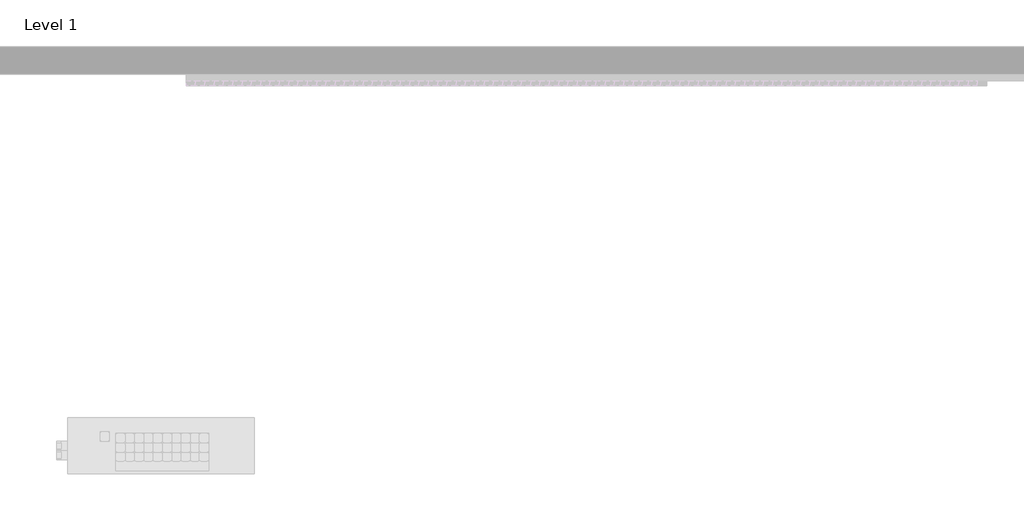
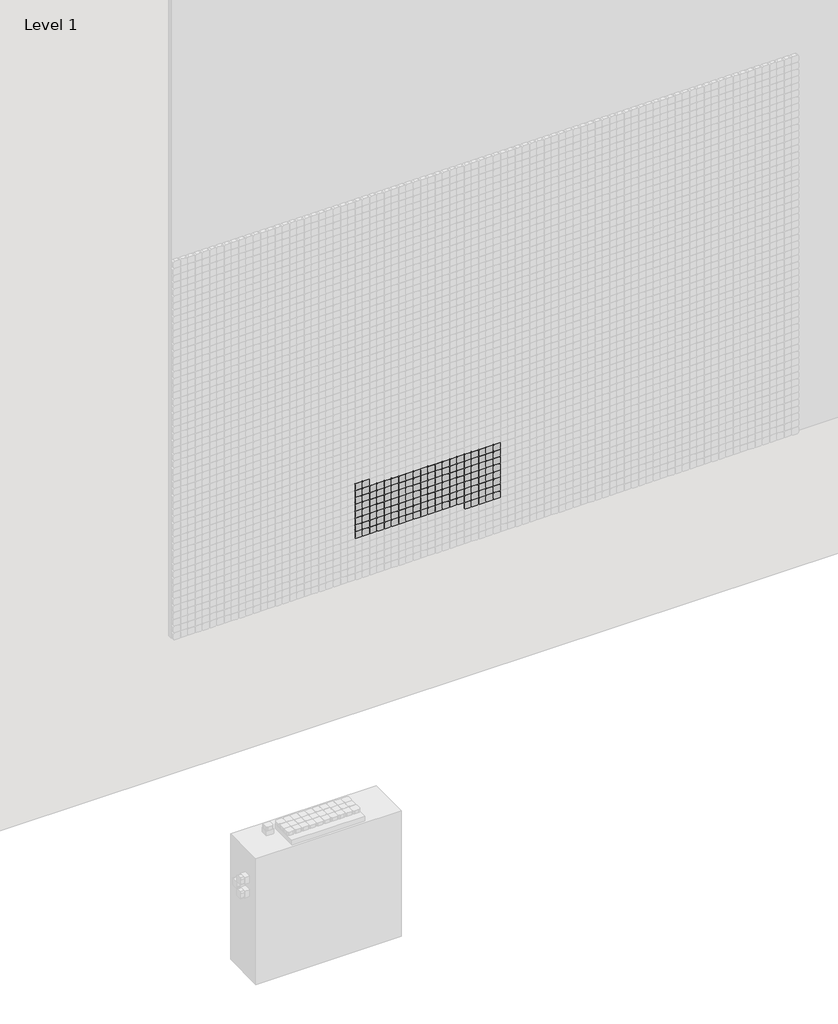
# One storey, part 33 of 71: 147 proxies.
"""IFC4 building model written with IfcOpenShell, lengths in millimetres."""

from ifc_helpers import new_model, si_unit, origin, place, context, project, spatial, transform, mapped, element, save
from components import generic_models_afde289c

model = new_model("IFC4")

# Units and contexts
model_context = context("Model", 3, world=origin())
ifc_project = project(units=[si_unit("LENGTHUNIT", "METRE", prefix="MILLI")], contexts=[model_context])

# Site, building, storey
site = spatial("IfcSite", under=ifc_project)
building = spatial("IfcBuilding", under=site)
storey = spatial("IfcBuildingStorey", under=building, Name="Level 1", Elevation=0.0)

# Proxies
placement = place(None, origin())
generic_models_shape = generic_models_afde289c(model_context)
element("IfcBuildingElementProxy", 1, Name="Pixel_M : Pixel_M", ObjectType="Pixel_M : Pixel_M", at=placement, inside=storey, context=model_context, shape_type="MappedRepresentation", body=[
    mapped(generic_models_shape, transform((6062.4280941, -75.0, 1666.3566215), x_axis=(1.0, 0.0, 0.0), y_axis=(0.0, 0.0, 1.0), z_axis=(0.0, -1.0, 0.0))),
])
element("IfcBuildingElementProxy", 2, Name="Pixel_M : Pixel_M", ObjectType="Pixel_M : Pixel_M", at=placement, inside=storey, context=model_context, shape_type="MappedRepresentation", body=[
    mapped(generic_models_shape, transform((6012.4280941, -75.0, 1666.3566215), x_axis=(1.0, 0.0, 0.0), y_axis=(0.0, 0.0, 1.0), z_axis=(0.0, -1.0, 0.0))),
])
element("IfcBuildingElementProxy", 3, Name="Pixel_M : Pixel_M", ObjectType="Pixel_M : Pixel_M", at=placement, inside=storey, context=model_context, shape_type="MappedRepresentation", body=[
    mapped(generic_models_shape, transform((6962.4280941, -75.0, 1616.3566215), x_axis=(1.0, 0.0, 0.0), y_axis=(0.0, 0.0, 1.0), z_axis=(0.0, -1.0, 0.0))),
])
element("IfcBuildingElementProxy", 4, Name="Pixel_M : Pixel_M", ObjectType="Pixel_M : Pixel_M", at=placement, inside=storey, context=model_context, shape_type="MappedRepresentation", body=[
    mapped(generic_models_shape, transform((6912.4280941, -75.0, 1616.3566215), x_axis=(1.0, 0.0, 0.0), y_axis=(0.0, 0.0, 1.0), z_axis=(0.0, -1.0, 0.0))),
])
element("IfcBuildingElementProxy", 5, Name="Pixel_M : Pixel_M", ObjectType="Pixel_M : Pixel_M", at=placement, inside=storey, context=model_context, shape_type="MappedRepresentation", body=[
    mapped(generic_models_shape, transform((6862.4280941, -75.0, 1616.3566215), x_axis=(1.0, 0.0, 0.0), y_axis=(0.0, 0.0, 1.0), z_axis=(0.0, -1.0, 0.0))),
])
element("IfcBuildingElementProxy", 6, Name="Pixel_M : Pixel_M", ObjectType="Pixel_M : Pixel_M", at=placement, inside=storey, context=model_context, shape_type="MappedRepresentation", body=[
    mapped(generic_models_shape, transform((6812.4280941, -75.0, 1616.3566215), x_axis=(1.0, 0.0, 0.0), y_axis=(0.0, 0.0, 1.0), z_axis=(0.0, -1.0, 0.0))),
])
element("IfcBuildingElementProxy", 7, Name="Pixel_M : Pixel_M", ObjectType="Pixel_M : Pixel_M", at=placement, inside=storey, context=model_context, shape_type="MappedRepresentation", body=[
    mapped(generic_models_shape, transform((6762.4280941, -75.0, 1616.3566215), x_axis=(1.0, 0.0, 0.0), y_axis=(0.0, 0.0, 1.0), z_axis=(0.0, -1.0, 0.0))),
])
element("IfcBuildingElementProxy", 8, Name="Pixel_M : Pixel_M", ObjectType="Pixel_M : Pixel_M", at=placement, inside=storey, context=model_context, shape_type="MappedRepresentation", body=[
    mapped(generic_models_shape, transform((6712.4280941, -75.0, 1616.3566215), x_axis=(1.0, 0.0, 0.0), y_axis=(0.0, 0.0, 1.0), z_axis=(0.0, -1.0, 0.0))),
])
element("IfcBuildingElementProxy", 9, Name="Pixel_M : Pixel_M", ObjectType="Pixel_M : Pixel_M", at=placement, inside=storey, context=model_context, shape_type="MappedRepresentation", body=[
    mapped(generic_models_shape, transform((6662.4280941, -75.0, 1616.3566215), x_axis=(1.0, 0.0, 0.0), y_axis=(0.0, 0.0, 1.0), z_axis=(0.0, -1.0, 0.0))),
])
element("IfcBuildingElementProxy", 10, Name="Pixel_M : Pixel_M", ObjectType="Pixel_M : Pixel_M", at=placement, inside=storey, context=model_context, shape_type="MappedRepresentation", body=[
    mapped(generic_models_shape, transform((6612.4280941, -75.0, 1616.3566215), x_axis=(1.0, 0.0, 0.0), y_axis=(0.0, 0.0, 1.0), z_axis=(0.0, -1.0, 0.0))),
])
element("IfcBuildingElementProxy", 11, Name="Pixel_M : Pixel_M", ObjectType="Pixel_M : Pixel_M", at=placement, inside=storey, context=model_context, shape_type="MappedRepresentation", body=[
    mapped(generic_models_shape, transform((6562.4280941, -75.0, 1616.3566215), x_axis=(1.0, 0.0, 0.0), y_axis=(0.0, 0.0, 1.0), z_axis=(0.0, -1.0, 0.0))),
])
element("IfcBuildingElementProxy", 12, Name="Pixel_M : Pixel_M", ObjectType="Pixel_M : Pixel_M", at=placement, inside=storey, context=model_context, shape_type="MappedRepresentation", body=[
    mapped(generic_models_shape, transform((6512.4280941, -75.0, 1616.3566215), x_axis=(1.0, 0.0, 0.0), y_axis=(0.0, 0.0, 1.0), z_axis=(0.0, -1.0, 0.0))),
])
element("IfcBuildingElementProxy", 13, Name="Pixel_M : Pixel_M", ObjectType="Pixel_M : Pixel_M", at=placement, inside=storey, context=model_context, shape_type="MappedRepresentation", body=[
    mapped(generic_models_shape, transform((6462.4280941, -75.0, 1616.3566215), x_axis=(1.0, 0.0, 0.0), y_axis=(0.0, 0.0, 1.0), z_axis=(0.0, -1.0, 0.0))),
])
element("IfcBuildingElementProxy", 14, Name="Pixel_M : Pixel_M", ObjectType="Pixel_M : Pixel_M", at=placement, inside=storey, context=model_context, shape_type="MappedRepresentation", body=[
    mapped(generic_models_shape, transform((6412.4280941, -75.0, 1616.3566215), x_axis=(1.0, 0.0, 0.0), y_axis=(0.0, 0.0, 1.0), z_axis=(0.0, -1.0, 0.0))),
])
element("IfcBuildingElementProxy", 15, Name="Pixel_M : Pixel_M", ObjectType="Pixel_M : Pixel_M", at=placement, inside=storey, context=model_context, shape_type="MappedRepresentation", body=[
    mapped(generic_models_shape, transform((6362.4280941, -75.0, 1616.3566215), x_axis=(1.0, 0.0, 0.0), y_axis=(0.0, 0.0, 1.0), z_axis=(0.0, -1.0, 0.0))),
])
element("IfcBuildingElementProxy", 16, Name="Pixel_M : Pixel_M", ObjectType="Pixel_M : Pixel_M", at=placement, inside=storey, context=model_context, shape_type="MappedRepresentation", body=[
    mapped(generic_models_shape, transform((6312.4280941, -75.0, 1616.3566215), x_axis=(1.0, 0.0, 0.0), y_axis=(0.0, 0.0, 1.0), z_axis=(0.0, -1.0, 0.0))),
])
element("IfcBuildingElementProxy", 17, Name="Pixel_M : Pixel_M", ObjectType="Pixel_M : Pixel_M", at=placement, inside=storey, context=model_context, shape_type="MappedRepresentation", body=[
    mapped(generic_models_shape, transform((6262.4280941, -75.0, 1616.3566215), x_axis=(1.0, 0.0, 0.0), y_axis=(0.0, 0.0, 1.0), z_axis=(0.0, -1.0, 0.0))),
])
element("IfcBuildingElementProxy", 18, Name="Pixel_M : Pixel_M", ObjectType="Pixel_M : Pixel_M", at=placement, inside=storey, context=model_context, shape_type="MappedRepresentation", body=[
    mapped(generic_models_shape, transform((6212.4280941, -75.0, 1616.3566215), x_axis=(1.0, 0.0, 0.0), y_axis=(0.0, 0.0, 1.0), z_axis=(0.0, -1.0, 0.0))),
])
element("IfcBuildingElementProxy", 19, Name="Pixel_M : Pixel_M", ObjectType="Pixel_M : Pixel_M", at=placement, inside=storey, context=model_context, shape_type="MappedRepresentation", body=[
    mapped(generic_models_shape, transform((6162.4280941, -75.0, 1616.3566215), x_axis=(1.0, 0.0, 0.0), y_axis=(0.0, 0.0, 1.0), z_axis=(0.0, -1.0, 0.0))),
])
element("IfcBuildingElementProxy", 20, Name="Pixel_M : Pixel_M", ObjectType="Pixel_M : Pixel_M", at=placement, inside=storey, context=model_context, shape_type="MappedRepresentation", body=[
    mapped(generic_models_shape, transform((6112.4280941, -75.0, 1616.3566215), x_axis=(1.0, 0.0, 0.0), y_axis=(0.0, 0.0, 1.0), z_axis=(0.0, -1.0, 0.0))),
])
element("IfcBuildingElementProxy", 21, Name="Pixel_M : Pixel_M", ObjectType="Pixel_M : Pixel_M", at=placement, inside=storey, context=model_context, shape_type="MappedRepresentation", body=[
    mapped(generic_models_shape, transform((6062.4280941, -75.0, 1616.3566215), x_axis=(1.0, 0.0, 0.0), y_axis=(0.0, 0.0, 1.0), z_axis=(0.0, -1.0, 0.0))),
])
element("IfcBuildingElementProxy", 22, Name="Pixel_M : Pixel_M", ObjectType="Pixel_M : Pixel_M", at=placement, inside=storey, context=model_context, shape_type="MappedRepresentation", body=[
    mapped(generic_models_shape, transform((6012.4280941, -75.0, 1616.3566215), x_axis=(1.0, 0.0, 0.0), y_axis=(0.0, 0.0, 1.0), z_axis=(0.0, -1.0, 0.0))),
])
element("IfcBuildingElementProxy", 23, Name="Pixel_M : Pixel_M", ObjectType="Pixel_M : Pixel_M", at=placement, inside=storey, context=model_context, shape_type="MappedRepresentation", body=[
    mapped(generic_models_shape, transform((6962.4280941, -75.0, 1566.3566215), x_axis=(1.0, 0.0, 0.0), y_axis=(0.0, 0.0, 1.0), z_axis=(0.0, -1.0, 0.0))),
])
element("IfcBuildingElementProxy", 24, Name="Pixel_M : Pixel_M", ObjectType="Pixel_M : Pixel_M", at=placement, inside=storey, context=model_context, shape_type="MappedRepresentation", body=[
    mapped(generic_models_shape, transform((6912.4280941, -75.0, 1566.3566215), x_axis=(1.0, 0.0, 0.0), y_axis=(0.0, 0.0, 1.0), z_axis=(0.0, -1.0, 0.0))),
])
element("IfcBuildingElementProxy", 25, Name="Pixel_M : Pixel_M", ObjectType="Pixel_M : Pixel_M", at=placement, inside=storey, context=model_context, shape_type="MappedRepresentation", body=[
    mapped(generic_models_shape, transform((6862.4280941, -75.0, 1566.3566215), x_axis=(1.0, 0.0, 0.0), y_axis=(0.0, 0.0, 1.0), z_axis=(0.0, -1.0, 0.0))),
])
element("IfcBuildingElementProxy", 26, Name="Pixel_M : Pixel_M", ObjectType="Pixel_M : Pixel_M", at=placement, inside=storey, context=model_context, shape_type="MappedRepresentation", body=[
    mapped(generic_models_shape, transform((6812.4280941, -75.0, 1566.3566215), x_axis=(1.0, 0.0, 0.0), y_axis=(0.0, 0.0, 1.0), z_axis=(0.0, -1.0, 0.0))),
])
element("IfcBuildingElementProxy", 27, Name="Pixel_M : Pixel_M", ObjectType="Pixel_M : Pixel_M", at=placement, inside=storey, context=model_context, shape_type="MappedRepresentation", body=[
    mapped(generic_models_shape, transform((6762.4280941, -75.0, 1566.3566215), x_axis=(1.0, 0.0, 0.0), y_axis=(0.0, 0.0, 1.0), z_axis=(0.0, -1.0, 0.0))),
])
element("IfcBuildingElementProxy", 28, Name="Pixel_M : Pixel_M", ObjectType="Pixel_M : Pixel_M", at=placement, inside=storey, context=model_context, shape_type="MappedRepresentation", body=[
    mapped(generic_models_shape, transform((6712.4280941, -75.0, 1566.3566215), x_axis=(1.0, 0.0, 0.0), y_axis=(0.0, 0.0, 1.0), z_axis=(0.0, -1.0, 0.0))),
])
element("IfcBuildingElementProxy", 29, Name="Pixel_M : Pixel_M", ObjectType="Pixel_M : Pixel_M", at=placement, inside=storey, context=model_context, shape_type="MappedRepresentation", body=[
    mapped(generic_models_shape, transform((6662.4280941, -75.0, 1566.3566215), x_axis=(1.0, 0.0, 0.0), y_axis=(0.0, 0.0, 1.0), z_axis=(0.0, -1.0, 0.0))),
])
element("IfcBuildingElementProxy", 30, Name="Pixel_M : Pixel_M", ObjectType="Pixel_M : Pixel_M", at=placement, inside=storey, context=model_context, shape_type="MappedRepresentation", body=[
    mapped(generic_models_shape, transform((6612.4280941, -75.0, 1566.3566215), x_axis=(1.0, 0.0, 0.0), y_axis=(0.0, 0.0, 1.0), z_axis=(0.0, -1.0, 0.0))),
])
element("IfcBuildingElementProxy", 31, Name="Pixel_M : Pixel_M", ObjectType="Pixel_M : Pixel_M", at=placement, inside=storey, context=model_context, shape_type="MappedRepresentation", body=[
    mapped(generic_models_shape, transform((6562.4280941, -75.0, 1566.3566215), x_axis=(1.0, 0.0, 0.0), y_axis=(0.0, 0.0, 1.0), z_axis=(0.0, -1.0, 0.0))),
])
element("IfcBuildingElementProxy", 32, Name="Pixel_M : Pixel_M", ObjectType="Pixel_M : Pixel_M", at=placement, inside=storey, context=model_context, shape_type="MappedRepresentation", body=[
    mapped(generic_models_shape, transform((6512.4280941, -75.0, 1566.3566215), x_axis=(1.0, 0.0, 0.0), y_axis=(0.0, 0.0, 1.0), z_axis=(0.0, -1.0, 0.0))),
])
element("IfcBuildingElementProxy", 33, Name="Pixel_M : Pixel_M", ObjectType="Pixel_M : Pixel_M", at=placement, inside=storey, context=model_context, shape_type="MappedRepresentation", body=[
    mapped(generic_models_shape, transform((6462.4280941, -75.0, 1566.3566215), x_axis=(1.0, 0.0, 0.0), y_axis=(0.0, 0.0, 1.0), z_axis=(0.0, -1.0, 0.0))),
])
element("IfcBuildingElementProxy", 34, Name="Pixel_M : Pixel_M", ObjectType="Pixel_M : Pixel_M", at=placement, inside=storey, context=model_context, shape_type="MappedRepresentation", body=[
    mapped(generic_models_shape, transform((6412.4280941, -75.0, 1566.3566215), x_axis=(1.0, 0.0, 0.0), y_axis=(0.0, 0.0, 1.0), z_axis=(0.0, -1.0, 0.0))),
])
element("IfcBuildingElementProxy", 35, Name="Pixel_M : Pixel_M", ObjectType="Pixel_M : Pixel_M", at=placement, inside=storey, context=model_context, shape_type="MappedRepresentation", body=[
    mapped(generic_models_shape, transform((6362.4280941, -75.0, 1566.3566215), x_axis=(1.0, 0.0, 0.0), y_axis=(0.0, 0.0, 1.0), z_axis=(0.0, -1.0, 0.0))),
])
element("IfcBuildingElementProxy", 36, Name="Pixel_M : Pixel_M", ObjectType="Pixel_M : Pixel_M", at=placement, inside=storey, context=model_context, shape_type="MappedRepresentation", body=[
    mapped(generic_models_shape, transform((6312.4280941, -75.0, 1566.3566215), x_axis=(1.0, 0.0, 0.0), y_axis=(0.0, 0.0, 1.0), z_axis=(0.0, -1.0, 0.0))),
])
element("IfcBuildingElementProxy", 37, Name="Pixel_M : Pixel_M", ObjectType="Pixel_M : Pixel_M", at=placement, inside=storey, context=model_context, shape_type="MappedRepresentation", body=[
    mapped(generic_models_shape, transform((6262.4280941, -75.0, 1566.3566215), x_axis=(1.0, 0.0, 0.0), y_axis=(0.0, 0.0, 1.0), z_axis=(0.0, -1.0, 0.0))),
])
element("IfcBuildingElementProxy", 38, Name="Pixel_M : Pixel_M", ObjectType="Pixel_M : Pixel_M", at=placement, inside=storey, context=model_context, shape_type="MappedRepresentation", body=[
    mapped(generic_models_shape, transform((6212.4280941, -75.0, 1566.3566215), x_axis=(1.0, 0.0, 0.0), y_axis=(0.0, 0.0, 1.0), z_axis=(0.0, -1.0, 0.0))),
])
element("IfcBuildingElementProxy", 39, Name="Pixel_M : Pixel_M", ObjectType="Pixel_M : Pixel_M", at=placement, inside=storey, context=model_context, shape_type="MappedRepresentation", body=[
    mapped(generic_models_shape, transform((6162.4280941, -75.0, 1566.3566215), x_axis=(1.0, 0.0, 0.0), y_axis=(0.0, 0.0, 1.0), z_axis=(0.0, -1.0, 0.0))),
])
element("IfcBuildingElementProxy", 40, Name="Pixel_M : Pixel_M", ObjectType="Pixel_M : Pixel_M", at=placement, inside=storey, context=model_context, shape_type="MappedRepresentation", body=[
    mapped(generic_models_shape, transform((6112.4280941, -75.0, 1566.3566215), x_axis=(1.0, 0.0, 0.0), y_axis=(0.0, 0.0, 1.0), z_axis=(0.0, -1.0, 0.0))),
])
element("IfcBuildingElementProxy", 41, Name="Pixel_M : Pixel_M", ObjectType="Pixel_M : Pixel_M", at=placement, inside=storey, context=model_context, shape_type="MappedRepresentation", body=[
    mapped(generic_models_shape, transform((6062.4280941, -75.0, 1566.3566215), x_axis=(1.0, 0.0, 0.0), y_axis=(0.0, 0.0, 1.0), z_axis=(0.0, -1.0, 0.0))),
])
element("IfcBuildingElementProxy", 42, Name="Pixel_M : Pixel_M", ObjectType="Pixel_M : Pixel_M", at=placement, inside=storey, context=model_context, shape_type="MappedRepresentation", body=[
    mapped(generic_models_shape, transform((6012.4280941, -75.0, 1566.3566215), x_axis=(1.0, 0.0, 0.0), y_axis=(0.0, 0.0, 1.0), z_axis=(0.0, -1.0, 0.0))),
])
element("IfcBuildingElementProxy", 43, Name="Pixel_M : Pixel_M", ObjectType="Pixel_M : Pixel_M", at=placement, inside=storey, context=model_context, shape_type="MappedRepresentation", body=[
    mapped(generic_models_shape, transform((6962.4280941, -75.0, 1516.3566215), x_axis=(1.0, 0.0, 0.0), y_axis=(0.0, 0.0, 1.0), z_axis=(0.0, -1.0, 0.0))),
])
element("IfcBuildingElementProxy", 44, Name="Pixel_M : Pixel_M", ObjectType="Pixel_M : Pixel_M", at=placement, inside=storey, context=model_context, shape_type="MappedRepresentation", body=[
    mapped(generic_models_shape, transform((6912.4280941, -75.0, 1516.3566215), x_axis=(1.0, 0.0, 0.0), y_axis=(0.0, 0.0, 1.0), z_axis=(0.0, -1.0, 0.0))),
])
element("IfcBuildingElementProxy", 45, Name="Pixel_M : Pixel_M", ObjectType="Pixel_M : Pixel_M", at=placement, inside=storey, context=model_context, shape_type="MappedRepresentation", body=[
    mapped(generic_models_shape, transform((6862.4280941, -75.0, 1516.3566215), x_axis=(1.0, 0.0, 0.0), y_axis=(0.0, 0.0, 1.0), z_axis=(0.0, -1.0, 0.0))),
])
element("IfcBuildingElementProxy", 46, Name="Pixel_M : Pixel_M", ObjectType="Pixel_M : Pixel_M", at=placement, inside=storey, context=model_context, shape_type="MappedRepresentation", body=[
    mapped(generic_models_shape, transform((6812.4280941, -75.0, 1516.3566215), x_axis=(1.0, 0.0, 0.0), y_axis=(0.0, 0.0, 1.0), z_axis=(0.0, -1.0, 0.0))),
])
element("IfcBuildingElementProxy", 47, Name="Pixel_M : Pixel_M", ObjectType="Pixel_M : Pixel_M", at=placement, inside=storey, context=model_context, shape_type="MappedRepresentation", body=[
    mapped(generic_models_shape, transform((6762.4280941, -75.0, 1516.3566215), x_axis=(1.0, 0.0, 0.0), y_axis=(0.0, 0.0, 1.0), z_axis=(0.0, -1.0, 0.0))),
])
element("IfcBuildingElementProxy", 48, Name="Pixel_M : Pixel_M", ObjectType="Pixel_M : Pixel_M", at=placement, inside=storey, context=model_context, shape_type="MappedRepresentation", body=[
    mapped(generic_models_shape, transform((6712.4280941, -75.0, 1516.3566215), x_axis=(1.0, 0.0, 0.0), y_axis=(0.0, 0.0, 1.0), z_axis=(0.0, -1.0, 0.0))),
])
element("IfcBuildingElementProxy", 49, Name="Pixel_M : Pixel_M", ObjectType="Pixel_M : Pixel_M", at=placement, inside=storey, context=model_context, shape_type="MappedRepresentation", body=[
    mapped(generic_models_shape, transform((6662.4280941, -75.0, 1516.3566215), x_axis=(1.0, 0.0, 0.0), y_axis=(0.0, 0.0, 1.0), z_axis=(0.0, -1.0, 0.0))),
])
element("IfcBuildingElementProxy", 50, Name="Pixel_M : Pixel_M", ObjectType="Pixel_M : Pixel_M", at=placement, inside=storey, context=model_context, shape_type="MappedRepresentation", body=[
    mapped(generic_models_shape, transform((6612.4280941, -75.0, 1516.3566215), x_axis=(1.0, 0.0, 0.0), y_axis=(0.0, 0.0, 1.0), z_axis=(0.0, -1.0, 0.0))),
])
element("IfcBuildingElementProxy", 51, Name="Pixel_M : Pixel_M", ObjectType="Pixel_M : Pixel_M", at=placement, inside=storey, context=model_context, shape_type="MappedRepresentation", body=[
    mapped(generic_models_shape, transform((6562.4280941, -75.0, 1516.3566215), x_axis=(1.0, 0.0, 0.0), y_axis=(0.0, 0.0, 1.0), z_axis=(0.0, -1.0, 0.0))),
])
element("IfcBuildingElementProxy", 52, Name="Pixel_M : Pixel_M", ObjectType="Pixel_M : Pixel_M", at=placement, inside=storey, context=model_context, shape_type="MappedRepresentation", body=[
    mapped(generic_models_shape, transform((6512.4280941, -75.0, 1516.3566215), x_axis=(1.0, 0.0, 0.0), y_axis=(0.0, 0.0, 1.0), z_axis=(0.0, -1.0, 0.0))),
])
element("IfcBuildingElementProxy", 53, Name="Pixel_M : Pixel_M", ObjectType="Pixel_M : Pixel_M", at=placement, inside=storey, context=model_context, shape_type="MappedRepresentation", body=[
    mapped(generic_models_shape, transform((6462.4280941, -75.0, 1516.3566215), x_axis=(1.0, 0.0, 0.0), y_axis=(0.0, 0.0, 1.0), z_axis=(0.0, -1.0, 0.0))),
])
element("IfcBuildingElementProxy", 54, Name="Pixel_M : Pixel_M", ObjectType="Pixel_M : Pixel_M", at=placement, inside=storey, context=model_context, shape_type="MappedRepresentation", body=[
    mapped(generic_models_shape, transform((6412.4280941, -75.0, 1516.3566215), x_axis=(1.0, 0.0, 0.0), y_axis=(0.0, 0.0, 1.0), z_axis=(0.0, -1.0, 0.0))),
])
element("IfcBuildingElementProxy", 55, Name="Pixel_M : Pixel_M", ObjectType="Pixel_M : Pixel_M", at=placement, inside=storey, context=model_context, shape_type="MappedRepresentation", body=[
    mapped(generic_models_shape, transform((6362.4280941, -75.0, 1516.3566215), x_axis=(1.0, 0.0, 0.0), y_axis=(0.0, 0.0, 1.0), z_axis=(0.0, -1.0, 0.0))),
])
element("IfcBuildingElementProxy", 56, Name="Pixel_M : Pixel_M", ObjectType="Pixel_M : Pixel_M", at=placement, inside=storey, context=model_context, shape_type="MappedRepresentation", body=[
    mapped(generic_models_shape, transform((6312.4280941, -75.0, 1516.3566215), x_axis=(1.0, 0.0, 0.0), y_axis=(0.0, 0.0, 1.0), z_axis=(0.0, -1.0, 0.0))),
])
element("IfcBuildingElementProxy", 57, Name="Pixel_M : Pixel_M", ObjectType="Pixel_M : Pixel_M", at=placement, inside=storey, context=model_context, shape_type="MappedRepresentation", body=[
    mapped(generic_models_shape, transform((6262.4280941, -75.0, 1516.3566215), x_axis=(1.0, 0.0, 0.0), y_axis=(0.0, 0.0, 1.0), z_axis=(0.0, -1.0, 0.0))),
])
element("IfcBuildingElementProxy", 58, Name="Pixel_M : Pixel_M", ObjectType="Pixel_M : Pixel_M", at=placement, inside=storey, context=model_context, shape_type="MappedRepresentation", body=[
    mapped(generic_models_shape, transform((6212.4280941, -75.0, 1516.3566215), x_axis=(1.0, 0.0, 0.0), y_axis=(0.0, 0.0, 1.0), z_axis=(0.0, -1.0, 0.0))),
])
element("IfcBuildingElementProxy", 59, Name="Pixel_M : Pixel_M", ObjectType="Pixel_M : Pixel_M", at=placement, inside=storey, context=model_context, shape_type="MappedRepresentation", body=[
    mapped(generic_models_shape, transform((6162.4280941, -75.0, 1516.3566215), x_axis=(1.0, 0.0, 0.0), y_axis=(0.0, 0.0, 1.0), z_axis=(0.0, -1.0, 0.0))),
])
element("IfcBuildingElementProxy", 60, Name="Pixel_M : Pixel_M", ObjectType="Pixel_M : Pixel_M", at=placement, inside=storey, context=model_context, shape_type="MappedRepresentation", body=[
    mapped(generic_models_shape, transform((6112.4280941, -75.0, 1516.3566215), x_axis=(1.0, 0.0, 0.0), y_axis=(0.0, 0.0, 1.0), z_axis=(0.0, -1.0, 0.0))),
])
element("IfcBuildingElementProxy", 61, Name="Pixel_M : Pixel_M", ObjectType="Pixel_M : Pixel_M", at=placement, inside=storey, context=model_context, shape_type="MappedRepresentation", body=[
    mapped(generic_models_shape, transform((6062.4280941, -75.0, 1516.3566215), x_axis=(1.0, 0.0, 0.0), y_axis=(0.0, 0.0, 1.0), z_axis=(0.0, -1.0, 0.0))),
])
element("IfcBuildingElementProxy", 62, Name="Pixel_M : Pixel_M", ObjectType="Pixel_M : Pixel_M", at=placement, inside=storey, context=model_context, shape_type="MappedRepresentation", body=[
    mapped(generic_models_shape, transform((6012.4280941, -75.0, 1516.3566215), x_axis=(1.0, 0.0, 0.0), y_axis=(0.0, 0.0, 1.0), z_axis=(0.0, -1.0, 0.0))),
])
element("IfcBuildingElementProxy", 63, Name="Pixel_M : Pixel_M", ObjectType="Pixel_M : Pixel_M", at=placement, inside=storey, context=model_context, shape_type="MappedRepresentation", body=[
    mapped(generic_models_shape, transform((6962.4280941, -75.0, 1466.3566215), x_axis=(1.0, 0.0, 0.0), y_axis=(0.0, 0.0, 1.0), z_axis=(0.0, -1.0, 0.0))),
])
element("IfcBuildingElementProxy", 64, Name="Pixel_M : Pixel_M", ObjectType="Pixel_M : Pixel_M", at=placement, inside=storey, context=model_context, shape_type="MappedRepresentation", body=[
    mapped(generic_models_shape, transform((6912.4280941, -75.0, 1466.3566215), x_axis=(1.0, 0.0, 0.0), y_axis=(0.0, 0.0, 1.0), z_axis=(0.0, -1.0, 0.0))),
])
element("IfcBuildingElementProxy", 65, Name="Pixel_M : Pixel_M", ObjectType="Pixel_M : Pixel_M", at=placement, inside=storey, context=model_context, shape_type="MappedRepresentation", body=[
    mapped(generic_models_shape, transform((6862.4280941, -75.0, 1466.3566215), x_axis=(1.0, 0.0, 0.0), y_axis=(0.0, 0.0, 1.0), z_axis=(0.0, -1.0, 0.0))),
])
element("IfcBuildingElementProxy", 66, Name="Pixel_M : Pixel_M", ObjectType="Pixel_M : Pixel_M", at=placement, inside=storey, context=model_context, shape_type="MappedRepresentation", body=[
    mapped(generic_models_shape, transform((6812.4280941, -75.0, 1466.3566215), x_axis=(1.0, 0.0, 0.0), y_axis=(0.0, 0.0, 1.0), z_axis=(0.0, -1.0, 0.0))),
])
element("IfcBuildingElementProxy", 67, Name="Pixel_M : Pixel_M", ObjectType="Pixel_M : Pixel_M", at=placement, inside=storey, context=model_context, shape_type="MappedRepresentation", body=[
    mapped(generic_models_shape, transform((6762.4280941, -75.0, 1466.3566215), x_axis=(1.0, 0.0, 0.0), y_axis=(0.0, 0.0, 1.0), z_axis=(0.0, -1.0, 0.0))),
])
element("IfcBuildingElementProxy", 68, Name="Pixel_M : Pixel_M", ObjectType="Pixel_M : Pixel_M", at=placement, inside=storey, context=model_context, shape_type="MappedRepresentation", body=[
    mapped(generic_models_shape, transform((6712.4280941, -75.0, 1466.3566215), x_axis=(1.0, 0.0, 0.0), y_axis=(0.0, 0.0, 1.0), z_axis=(0.0, -1.0, 0.0))),
])
element("IfcBuildingElementProxy", 69, Name="Pixel_M : Pixel_M", ObjectType="Pixel_M : Pixel_M", at=placement, inside=storey, context=model_context, shape_type="MappedRepresentation", body=[
    mapped(generic_models_shape, transform((6662.4280941, -75.0, 1466.3566215), x_axis=(1.0, 0.0, 0.0), y_axis=(0.0, 0.0, 1.0), z_axis=(0.0, -1.0, 0.0))),
])
element("IfcBuildingElementProxy", 70, Name="Pixel_M : Pixel_M", ObjectType="Pixel_M : Pixel_M", at=placement, inside=storey, context=model_context, shape_type="MappedRepresentation", body=[
    mapped(generic_models_shape, transform((6612.4280941, -75.0, 1466.3566215), x_axis=(1.0, 0.0, 0.0), y_axis=(0.0, 0.0, 1.0), z_axis=(0.0, -1.0, 0.0))),
])
element("IfcBuildingElementProxy", 71, Name="Pixel_M : Pixel_M", ObjectType="Pixel_M : Pixel_M", at=placement, inside=storey, context=model_context, shape_type="MappedRepresentation", body=[
    mapped(generic_models_shape, transform((6562.4280941, -75.0, 1466.3566215), x_axis=(1.0, 0.0, 0.0), y_axis=(0.0, 0.0, 1.0), z_axis=(0.0, -1.0, 0.0))),
])
element("IfcBuildingElementProxy", 72, Name="Pixel_M : Pixel_M", ObjectType="Pixel_M : Pixel_M", at=placement, inside=storey, context=model_context, shape_type="MappedRepresentation", body=[
    mapped(generic_models_shape, transform((6512.4280941, -75.0, 1466.3566215), x_axis=(1.0, 0.0, 0.0), y_axis=(0.0, 0.0, 1.0), z_axis=(0.0, -1.0, 0.0))),
])
element("IfcBuildingElementProxy", 73, Name="Pixel_M : Pixel_M", ObjectType="Pixel_M : Pixel_M", at=placement, inside=storey, context=model_context, shape_type="MappedRepresentation", body=[
    mapped(generic_models_shape, transform((6462.4280941, -75.0, 1466.3566215), x_axis=(1.0, 0.0, 0.0), y_axis=(0.0, 0.0, 1.0), z_axis=(0.0, -1.0, 0.0))),
])
element("IfcBuildingElementProxy", 74, Name="Pixel_M : Pixel_M", ObjectType="Pixel_M : Pixel_M", at=placement, inside=storey, context=model_context, shape_type="MappedRepresentation", body=[
    mapped(generic_models_shape, transform((6412.4280941, -75.0, 1466.3566215), x_axis=(1.0, 0.0, 0.0), y_axis=(0.0, 0.0, 1.0), z_axis=(0.0, -1.0, 0.0))),
])
element("IfcBuildingElementProxy", 75, Name="Pixel_M : Pixel_M", ObjectType="Pixel_M : Pixel_M", at=placement, inside=storey, context=model_context, shape_type="MappedRepresentation", body=[
    mapped(generic_models_shape, transform((6362.4280941, -75.0, 1466.3566215), x_axis=(1.0, 0.0, 0.0), y_axis=(0.0, 0.0, 1.0), z_axis=(0.0, -1.0, 0.0))),
])
element("IfcBuildingElementProxy", 76, Name="Pixel_M : Pixel_M", ObjectType="Pixel_M : Pixel_M", at=placement, inside=storey, context=model_context, shape_type="MappedRepresentation", body=[
    mapped(generic_models_shape, transform((6312.4280941, -75.0, 1466.3566215), x_axis=(1.0, 0.0, 0.0), y_axis=(0.0, 0.0, 1.0), z_axis=(0.0, -1.0, 0.0))),
])
element("IfcBuildingElementProxy", 77, Name="Pixel_M : Pixel_M", ObjectType="Pixel_M : Pixel_M", at=placement, inside=storey, context=model_context, shape_type="MappedRepresentation", body=[
    mapped(generic_models_shape, transform((6262.4280941, -75.0, 1466.3566215), x_axis=(1.0, 0.0, 0.0), y_axis=(0.0, 0.0, 1.0), z_axis=(0.0, -1.0, 0.0))),
])
element("IfcBuildingElementProxy", 78, Name="Pixel_M : Pixel_M", ObjectType="Pixel_M : Pixel_M", at=placement, inside=storey, context=model_context, shape_type="MappedRepresentation", body=[
    mapped(generic_models_shape, transform((6212.4280941, -75.0, 1466.3566215), x_axis=(1.0, 0.0, 0.0), y_axis=(0.0, 0.0, 1.0), z_axis=(0.0, -1.0, 0.0))),
])
element("IfcBuildingElementProxy", 79, Name="Pixel_M : Pixel_M", ObjectType="Pixel_M : Pixel_M", at=placement, inside=storey, context=model_context, shape_type="MappedRepresentation", body=[
    mapped(generic_models_shape, transform((6162.4280941, -75.0, 1466.3566215), x_axis=(1.0, 0.0, 0.0), y_axis=(0.0, 0.0, 1.0), z_axis=(0.0, -1.0, 0.0))),
])
element("IfcBuildingElementProxy", 80, Name="Pixel_M : Pixel_M", ObjectType="Pixel_M : Pixel_M", at=placement, inside=storey, context=model_context, shape_type="MappedRepresentation", body=[
    mapped(generic_models_shape, transform((6112.4280941, -75.0, 1466.3566215), x_axis=(1.0, 0.0, 0.0), y_axis=(0.0, 0.0, 1.0), z_axis=(0.0, -1.0, 0.0))),
])
element("IfcBuildingElementProxy", 81, Name="Pixel_M : Pixel_M", ObjectType="Pixel_M : Pixel_M", at=placement, inside=storey, context=model_context, shape_type="MappedRepresentation", body=[
    mapped(generic_models_shape, transform((6062.4280941, -75.0, 1466.3566215), x_axis=(1.0, 0.0, 0.0), y_axis=(0.0, 0.0, 1.0), z_axis=(0.0, -1.0, 0.0))),
])
element("IfcBuildingElementProxy", 82, Name="Pixel_M : Pixel_M", ObjectType="Pixel_M : Pixel_M", at=placement, inside=storey, context=model_context, shape_type="MappedRepresentation", body=[
    mapped(generic_models_shape, transform((6012.4280941, -75.0, 1466.3566215), x_axis=(1.0, 0.0, 0.0), y_axis=(0.0, 0.0, 1.0), z_axis=(0.0, -1.0, 0.0))),
])
element("IfcBuildingElementProxy", 83, Name="Pixel_M : Pixel_M", ObjectType="Pixel_M : Pixel_M", at=placement, inside=storey, context=model_context, shape_type="MappedRepresentation", body=[
    mapped(generic_models_shape, transform((6962.4280941, -75.0, 1416.3566215), x_axis=(1.0, 0.0, 0.0), y_axis=(0.0, 0.0, 1.0), z_axis=(0.0, -1.0, 0.0))),
])
element("IfcBuildingElementProxy", 84, Name="Pixel_M : Pixel_M", ObjectType="Pixel_M : Pixel_M", at=placement, inside=storey, context=model_context, shape_type="MappedRepresentation", body=[
    mapped(generic_models_shape, transform((6912.4280941, -75.0, 1416.3566215), x_axis=(1.0, 0.0, 0.0), y_axis=(0.0, 0.0, 1.0), z_axis=(0.0, -1.0, 0.0))),
])
element("IfcBuildingElementProxy", 85, Name="Pixel_M : Pixel_M", ObjectType="Pixel_M : Pixel_M", at=placement, inside=storey, context=model_context, shape_type="MappedRepresentation", body=[
    mapped(generic_models_shape, transform((6862.4280941, -75.0, 1416.3566215), x_axis=(1.0, 0.0, 0.0), y_axis=(0.0, 0.0, 1.0), z_axis=(0.0, -1.0, 0.0))),
])
element("IfcBuildingElementProxy", 86, Name="Pixel_M : Pixel_M", ObjectType="Pixel_M : Pixel_M", at=placement, inside=storey, context=model_context, shape_type="MappedRepresentation", body=[
    mapped(generic_models_shape, transform((6812.4280941, -75.0, 1416.3566215), x_axis=(1.0, 0.0, 0.0), y_axis=(0.0, 0.0, 1.0), z_axis=(0.0, -1.0, 0.0))),
])
element("IfcBuildingElementProxy", 87, Name="Pixel_M : Pixel_M", ObjectType="Pixel_M : Pixel_M", at=placement, inside=storey, context=model_context, shape_type="MappedRepresentation", body=[
    mapped(generic_models_shape, transform((6762.4280941, -75.0, 1416.3566215), x_axis=(1.0, 0.0, 0.0), y_axis=(0.0, 0.0, 1.0), z_axis=(0.0, -1.0, 0.0))),
])
element("IfcBuildingElementProxy", 88, Name="Pixel_M : Pixel_M", ObjectType="Pixel_M : Pixel_M", at=placement, inside=storey, context=model_context, shape_type="MappedRepresentation", body=[
    mapped(generic_models_shape, transform((6712.4280941, -75.0, 1416.3566215), x_axis=(1.0, 0.0, 0.0), y_axis=(0.0, 0.0, 1.0), z_axis=(0.0, -1.0, 0.0))),
])
element("IfcBuildingElementProxy", 89, Name="Pixel_M : Pixel_M", ObjectType="Pixel_M : Pixel_M", at=placement, inside=storey, context=model_context, shape_type="MappedRepresentation", body=[
    mapped(generic_models_shape, transform((6662.4280941, -75.0, 1416.3566215), x_axis=(1.0, 0.0, 0.0), y_axis=(0.0, 0.0, 1.0), z_axis=(0.0, -1.0, 0.0))),
])
element("IfcBuildingElementProxy", 90, Name="Pixel_M : Pixel_M", ObjectType="Pixel_M : Pixel_M", at=placement, inside=storey, context=model_context, shape_type="MappedRepresentation", body=[
    mapped(generic_models_shape, transform((6612.4280941, -75.0, 1416.3566215), x_axis=(1.0, 0.0, 0.0), y_axis=(0.0, 0.0, 1.0), z_axis=(0.0, -1.0, 0.0))),
])
element("IfcBuildingElementProxy", 91, Name="Pixel_M : Pixel_M", ObjectType="Pixel_M : Pixel_M", at=placement, inside=storey, context=model_context, shape_type="MappedRepresentation", body=[
    mapped(generic_models_shape, transform((6562.4280941, -75.0, 1416.3566215), x_axis=(1.0, 0.0, 0.0), y_axis=(0.0, 0.0, 1.0), z_axis=(0.0, -1.0, 0.0))),
])
element("IfcBuildingElementProxy", 92, Name="Pixel_M : Pixel_M", ObjectType="Pixel_M : Pixel_M", at=placement, inside=storey, context=model_context, shape_type="MappedRepresentation", body=[
    mapped(generic_models_shape, transform((6512.4280941, -75.0, 1416.3566215), x_axis=(1.0, 0.0, 0.0), y_axis=(0.0, 0.0, 1.0), z_axis=(0.0, -1.0, 0.0))),
])
element("IfcBuildingElementProxy", 93, Name="Pixel_M : Pixel_M", ObjectType="Pixel_M : Pixel_M", at=placement, inside=storey, context=model_context, shape_type="MappedRepresentation", body=[
    mapped(generic_models_shape, transform((6462.4280941, -75.0, 1416.3566215), x_axis=(1.0, 0.0, 0.0), y_axis=(0.0, 0.0, 1.0), z_axis=(0.0, -1.0, 0.0))),
])
element("IfcBuildingElementProxy", 94, Name="Pixel_M : Pixel_M", ObjectType="Pixel_M : Pixel_M", at=placement, inside=storey, context=model_context, shape_type="MappedRepresentation", body=[
    mapped(generic_models_shape, transform((6412.4280941, -75.0, 1416.3566215), x_axis=(1.0, 0.0, 0.0), y_axis=(0.0, 0.0, 1.0), z_axis=(0.0, -1.0, 0.0))),
])
element("IfcBuildingElementProxy", 95, Name="Pixel_M : Pixel_M", ObjectType="Pixel_M : Pixel_M", at=placement, inside=storey, context=model_context, shape_type="MappedRepresentation", body=[
    mapped(generic_models_shape, transform((6362.4280941, -75.0, 1416.3566215), x_axis=(1.0, 0.0, 0.0), y_axis=(0.0, 0.0, 1.0), z_axis=(0.0, -1.0, 0.0))),
])
element("IfcBuildingElementProxy", 96, Name="Pixel_M : Pixel_M", ObjectType="Pixel_M : Pixel_M", at=placement, inside=storey, context=model_context, shape_type="MappedRepresentation", body=[
    mapped(generic_models_shape, transform((6312.4280941, -75.0, 1416.3566215), x_axis=(1.0, 0.0, 0.0), y_axis=(0.0, 0.0, 1.0), z_axis=(0.0, -1.0, 0.0))),
])
element("IfcBuildingElementProxy", 97, Name="Pixel_M : Pixel_M", ObjectType="Pixel_M : Pixel_M", at=placement, inside=storey, context=model_context, shape_type="MappedRepresentation", body=[
    mapped(generic_models_shape, transform((6262.4280941, -75.0, 1416.3566215), x_axis=(1.0, 0.0, 0.0), y_axis=(0.0, 0.0, 1.0), z_axis=(0.0, -1.0, 0.0))),
])
element("IfcBuildingElementProxy", 98, Name="Pixel_M : Pixel_M", ObjectType="Pixel_M : Pixel_M", at=placement, inside=storey, context=model_context, shape_type="MappedRepresentation", body=[
    mapped(generic_models_shape, transform((6212.4280941, -75.0, 1416.3566215), x_axis=(1.0, 0.0, 0.0), y_axis=(0.0, 0.0, 1.0), z_axis=(0.0, -1.0, 0.0))),
])
element("IfcBuildingElementProxy", 99, Name="Pixel_M : Pixel_M", ObjectType="Pixel_M : Pixel_M", at=placement, inside=storey, context=model_context, shape_type="MappedRepresentation", body=[
    mapped(generic_models_shape, transform((6162.4280941, -75.0, 1416.3566215), x_axis=(1.0, 0.0, 0.0), y_axis=(0.0, 0.0, 1.0), z_axis=(0.0, -1.0, 0.0))),
])
element("IfcBuildingElementProxy", 100, Name="Pixel_M : Pixel_M", ObjectType="Pixel_M : Pixel_M", at=placement, inside=storey, context=model_context, shape_type="MappedRepresentation", body=[
    mapped(generic_models_shape, transform((6112.4280941, -75.0, 1416.3566215), x_axis=(1.0, 0.0, 0.0), y_axis=(0.0, 0.0, 1.0), z_axis=(0.0, -1.0, 0.0))),
])
element("IfcBuildingElementProxy", 101, Name="Pixel_M : Pixel_M", ObjectType="Pixel_M : Pixel_M", at=placement, inside=storey, context=model_context, shape_type="MappedRepresentation", body=[
    mapped(generic_models_shape, transform((6062.4280941, -75.0, 1416.3566215), x_axis=(1.0, 0.0, 0.0), y_axis=(0.0, 0.0, 1.0), z_axis=(0.0, -1.0, 0.0))),
])
element("IfcBuildingElementProxy", 102, Name="Pixel_M : Pixel_M", ObjectType="Pixel_M : Pixel_M", at=placement, inside=storey, context=model_context, shape_type="MappedRepresentation", body=[
    mapped(generic_models_shape, transform((6012.4280941, -75.0, 1416.3566215), x_axis=(1.0, 0.0, 0.0), y_axis=(0.0, 0.0, 1.0), z_axis=(0.0, -1.0, 0.0))),
])
element("IfcBuildingElementProxy", 103, Name="Pixel_M : Pixel_M", ObjectType="Pixel_M : Pixel_M", at=placement, inside=storey, context=model_context, shape_type="MappedRepresentation", body=[
    mapped(generic_models_shape, transform((6962.4280941, -75.0, 1366.3566215), x_axis=(1.0, 0.0, 0.0), y_axis=(0.0, 0.0, 1.0), z_axis=(0.0, -1.0, 0.0))),
])
element("IfcBuildingElementProxy", 104, Name="Pixel_M : Pixel_M", ObjectType="Pixel_M : Pixel_M", at=placement, inside=storey, context=model_context, shape_type="MappedRepresentation", body=[
    mapped(generic_models_shape, transform((6912.4280941, -75.0, 1366.3566215), x_axis=(1.0, 0.0, 0.0), y_axis=(0.0, 0.0, 1.0), z_axis=(0.0, -1.0, 0.0))),
])
element("IfcBuildingElementProxy", 105, Name="Pixel_M : Pixel_M", ObjectType="Pixel_M : Pixel_M", at=placement, inside=storey, context=model_context, shape_type="MappedRepresentation", body=[
    mapped(generic_models_shape, transform((6862.4280941, -75.0, 1366.3566215), x_axis=(1.0, 0.0, 0.0), y_axis=(0.0, 0.0, 1.0), z_axis=(0.0, -1.0, 0.0))),
])
element("IfcBuildingElementProxy", 106, Name="Pixel_M : Pixel_M", ObjectType="Pixel_M : Pixel_M", at=placement, inside=storey, context=model_context, shape_type="MappedRepresentation", body=[
    mapped(generic_models_shape, transform((6812.4280941, -75.0, 1366.3566215), x_axis=(1.0, 0.0, 0.0), y_axis=(0.0, 0.0, 1.0), z_axis=(0.0, -1.0, 0.0))),
])
element("IfcBuildingElementProxy", 107, Name="Pixel_M : Pixel_M", ObjectType="Pixel_M : Pixel_M", at=placement, inside=storey, context=model_context, shape_type="MappedRepresentation", body=[
    mapped(generic_models_shape, transform((6762.4280941, -75.0, 1366.3566215), x_axis=(1.0, 0.0, 0.0), y_axis=(0.0, 0.0, 1.0), z_axis=(0.0, -1.0, 0.0))),
])
element("IfcBuildingElementProxy", 108, Name="Pixel_M : Pixel_M", ObjectType="Pixel_M : Pixel_M", at=placement, inside=storey, context=model_context, shape_type="MappedRepresentation", body=[
    mapped(generic_models_shape, transform((6712.4280941, -75.0, 1366.3566215), x_axis=(1.0, 0.0, 0.0), y_axis=(0.0, 0.0, 1.0), z_axis=(0.0, -1.0, 0.0))),
])
element("IfcBuildingElementProxy", 109, Name="Pixel_M : Pixel_M", ObjectType="Pixel_M : Pixel_M", at=placement, inside=storey, context=model_context, shape_type="MappedRepresentation", body=[
    mapped(generic_models_shape, transform((6662.4280941, -75.0, 1366.3566215), x_axis=(1.0, 0.0, 0.0), y_axis=(0.0, 0.0, 1.0), z_axis=(0.0, -1.0, 0.0))),
])
element("IfcBuildingElementProxy", 110, Name="Pixel_M : Pixel_M", ObjectType="Pixel_M : Pixel_M", at=placement, inside=storey, context=model_context, shape_type="MappedRepresentation", body=[
    mapped(generic_models_shape, transform((6612.4280941, -75.0, 1366.3566215), x_axis=(1.0, 0.0, 0.0), y_axis=(0.0, 0.0, 1.0), z_axis=(0.0, -1.0, 0.0))),
])
element("IfcBuildingElementProxy", 111, Name="Pixel_M : Pixel_M", ObjectType="Pixel_M : Pixel_M", at=placement, inside=storey, context=model_context, shape_type="MappedRepresentation", body=[
    mapped(generic_models_shape, transform((6562.4280941, -75.0, 1366.3566215), x_axis=(1.0, 0.0, 0.0), y_axis=(0.0, 0.0, 1.0), z_axis=(0.0, -1.0, 0.0))),
])
element("IfcBuildingElementProxy", 112, Name="Pixel_M : Pixel_M", ObjectType="Pixel_M : Pixel_M", at=placement, inside=storey, context=model_context, shape_type="MappedRepresentation", body=[
    mapped(generic_models_shape, transform((6512.4280941, -75.0, 1366.3566215), x_axis=(1.0, 0.0, 0.0), y_axis=(0.0, 0.0, 1.0), z_axis=(0.0, -1.0, 0.0))),
])
element("IfcBuildingElementProxy", 113, Name="Pixel_M : Pixel_M", ObjectType="Pixel_M : Pixel_M", at=placement, inside=storey, context=model_context, shape_type="MappedRepresentation", body=[
    mapped(generic_models_shape, transform((6462.4280941, -75.0, 1366.3566215), x_axis=(1.0, 0.0, 0.0), y_axis=(0.0, 0.0, 1.0), z_axis=(0.0, -1.0, 0.0))),
])
element("IfcBuildingElementProxy", 114, Name="Pixel_M : Pixel_M", ObjectType="Pixel_M : Pixel_M", at=placement, inside=storey, context=model_context, shape_type="MappedRepresentation", body=[
    mapped(generic_models_shape, transform((6412.4280941, -75.0, 1366.3566215), x_axis=(1.0, 0.0, 0.0), y_axis=(0.0, 0.0, 1.0), z_axis=(0.0, -1.0, 0.0))),
])
element("IfcBuildingElementProxy", 115, Name="Pixel_M : Pixel_M", ObjectType="Pixel_M : Pixel_M", at=placement, inside=storey, context=model_context, shape_type="MappedRepresentation", body=[
    mapped(generic_models_shape, transform((6362.4280941, -75.0, 1366.3566215), x_axis=(1.0, 0.0, 0.0), y_axis=(0.0, 0.0, 1.0), z_axis=(0.0, -1.0, 0.0))),
])
element("IfcBuildingElementProxy", 116, Name="Pixel_M : Pixel_M", ObjectType="Pixel_M : Pixel_M", at=placement, inside=storey, context=model_context, shape_type="MappedRepresentation", body=[
    mapped(generic_models_shape, transform((6312.4280941, -75.0, 1366.3566215), x_axis=(1.0, 0.0, 0.0), y_axis=(0.0, 0.0, 1.0), z_axis=(0.0, -1.0, 0.0))),
])
element("IfcBuildingElementProxy", 117, Name="Pixel_M : Pixel_M", ObjectType="Pixel_M : Pixel_M", at=placement, inside=storey, context=model_context, shape_type="MappedRepresentation", body=[
    mapped(generic_models_shape, transform((6262.4280941, -75.0, 1366.3566215), x_axis=(1.0, 0.0, 0.0), y_axis=(0.0, 0.0, 1.0), z_axis=(0.0, -1.0, 0.0))),
])
element("IfcBuildingElementProxy", 118, Name="Pixel_M : Pixel_M", ObjectType="Pixel_M : Pixel_M", at=placement, inside=storey, context=model_context, shape_type="MappedRepresentation", body=[
    mapped(generic_models_shape, transform((6212.4280941, -75.0, 1366.3566215), x_axis=(1.0, 0.0, 0.0), y_axis=(0.0, 0.0, 1.0), z_axis=(0.0, -1.0, 0.0))),
])
element("IfcBuildingElementProxy", 119, Name="Pixel_M : Pixel_M", ObjectType="Pixel_M : Pixel_M", at=placement, inside=storey, context=model_context, shape_type="MappedRepresentation", body=[
    mapped(generic_models_shape, transform((6162.4280941, -75.0, 1366.3566215), x_axis=(1.0, 0.0, 0.0), y_axis=(0.0, 0.0, 1.0), z_axis=(0.0, -1.0, 0.0))),
])
element("IfcBuildingElementProxy", 120, Name="Pixel_M : Pixel_M", ObjectType="Pixel_M : Pixel_M", at=placement, inside=storey, context=model_context, shape_type="MappedRepresentation", body=[
    mapped(generic_models_shape, transform((6112.4280941, -75.0, 1366.3566215), x_axis=(1.0, 0.0, 0.0), y_axis=(0.0, 0.0, 1.0), z_axis=(0.0, -1.0, 0.0))),
])
element("IfcBuildingElementProxy", 121, Name="Pixel_M : Pixel_M", ObjectType="Pixel_M : Pixel_M", at=placement, inside=storey, context=model_context, shape_type="MappedRepresentation", body=[
    mapped(generic_models_shape, transform((6062.4280941, -75.0, 1366.3566215), x_axis=(1.0, 0.0, 0.0), y_axis=(0.0, 0.0, 1.0), z_axis=(0.0, -1.0, 0.0))),
])
element("IfcBuildingElementProxy", 122, Name="Pixel_M : Pixel_M", ObjectType="Pixel_M : Pixel_M", at=placement, inside=storey, context=model_context, shape_type="MappedRepresentation", body=[
    mapped(generic_models_shape, transform((6012.4280941, -75.0, 1366.3566215), x_axis=(1.0, 0.0, 0.0), y_axis=(0.0, 0.0, 1.0), z_axis=(0.0, -1.0, 0.0))),
])
element("IfcBuildingElementProxy", 123, Name="Pixel_M : Pixel_M", ObjectType="Pixel_M : Pixel_M", at=placement, inside=storey, context=model_context, shape_type="MappedRepresentation", body=[
    mapped(generic_models_shape, transform((6962.4280941, -75.0, 1316.3566215), x_axis=(1.0, 0.0, 0.0), y_axis=(0.0, 0.0, 1.0), z_axis=(0.0, -1.0, 0.0))),
])
element("IfcBuildingElementProxy", 124, Name="Pixel_M : Pixel_M", ObjectType="Pixel_M : Pixel_M", at=placement, inside=storey, context=model_context, shape_type="MappedRepresentation", body=[
    mapped(generic_models_shape, transform((6912.4280941, -75.0, 1316.3566215), x_axis=(1.0, 0.0, 0.0), y_axis=(0.0, 0.0, 1.0), z_axis=(0.0, -1.0, 0.0))),
])
element("IfcBuildingElementProxy", 125, Name="Pixel_M : Pixel_M", ObjectType="Pixel_M : Pixel_M", at=placement, inside=storey, context=model_context, shape_type="MappedRepresentation", body=[
    mapped(generic_models_shape, transform((6862.4280941, -75.0, 1316.3566215), x_axis=(1.0, 0.0, 0.0), y_axis=(0.0, 0.0, 1.0), z_axis=(0.0, -1.0, 0.0))),
])
element("IfcBuildingElementProxy", 126, Name="Pixel_M : Pixel_M", ObjectType="Pixel_M : Pixel_M", at=placement, inside=storey, context=model_context, shape_type="MappedRepresentation", body=[
    mapped(generic_models_shape, transform((6812.4280941, -75.0, 1316.3566215), x_axis=(1.0, 0.0, 0.0), y_axis=(0.0, 0.0, 1.0), z_axis=(0.0, -1.0, 0.0))),
])
element("IfcBuildingElementProxy", 127, Name="Pixel_M : Pixel_M", ObjectType="Pixel_M : Pixel_M", at=placement, inside=storey, context=model_context, shape_type="MappedRepresentation", body=[
    mapped(generic_models_shape, transform((6762.4280941, -75.0, 1316.3566215), x_axis=(1.0, 0.0, 0.0), y_axis=(0.0, 0.0, 1.0), z_axis=(0.0, -1.0, 0.0))),
])
element("IfcBuildingElementProxy", 128, Name="Pixel_M : Pixel_M", ObjectType="Pixel_M : Pixel_M", at=placement, inside=storey, context=model_context, shape_type="MappedRepresentation", body=[
    mapped(generic_models_shape, transform((6712.4280941, -75.0, 1316.3566215), x_axis=(1.0, 0.0, 0.0), y_axis=(0.0, 0.0, 1.0), z_axis=(0.0, -1.0, 0.0))),
])
element("IfcBuildingElementProxy", 129, Name="Pixel_M : Pixel_M", ObjectType="Pixel_M : Pixel_M", at=placement, inside=storey, context=model_context, shape_type="MappedRepresentation", body=[
    mapped(generic_models_shape, transform((6662.4280941, -75.0, 1316.3566215), x_axis=(1.0, 0.0, 0.0), y_axis=(0.0, 0.0, 1.0), z_axis=(0.0, -1.0, 0.0))),
])
element("IfcBuildingElementProxy", 130, Name="Pixel_M : Pixel_M", ObjectType="Pixel_M : Pixel_M", at=placement, inside=storey, context=model_context, shape_type="MappedRepresentation", body=[
    mapped(generic_models_shape, transform((6612.4280941, -75.0, 1316.3566215), x_axis=(1.0, 0.0, 0.0), y_axis=(0.0, 0.0, 1.0), z_axis=(0.0, -1.0, 0.0))),
])
element("IfcBuildingElementProxy", 131, Name="Pixel_M : Pixel_M", ObjectType="Pixel_M : Pixel_M", at=placement, inside=storey, context=model_context, shape_type="MappedRepresentation", body=[
    mapped(generic_models_shape, transform((6562.4280941, -75.0, 1316.3566215), x_axis=(1.0, 0.0, 0.0), y_axis=(0.0, 0.0, 1.0), z_axis=(0.0, -1.0, 0.0))),
])
element("IfcBuildingElementProxy", 132, Name="Pixel_M : Pixel_M", ObjectType="Pixel_M : Pixel_M", at=placement, inside=storey, context=model_context, shape_type="MappedRepresentation", body=[
    mapped(generic_models_shape, transform((6512.4280941, -75.0, 1316.3566215), x_axis=(1.0, 0.0, 0.0), y_axis=(0.0, 0.0, 1.0), z_axis=(0.0, -1.0, 0.0))),
])
element("IfcBuildingElementProxy", 133, Name="Pixel_M : Pixel_M", ObjectType="Pixel_M : Pixel_M", at=placement, inside=storey, context=model_context, shape_type="MappedRepresentation", body=[
    mapped(generic_models_shape, transform((6462.4280941, -75.0, 1316.3566215), x_axis=(1.0, 0.0, 0.0), y_axis=(0.0, 0.0, 1.0), z_axis=(0.0, -1.0, 0.0))),
])
element("IfcBuildingElementProxy", 134, Name="Pixel_M : Pixel_M", ObjectType="Pixel_M : Pixel_M", at=placement, inside=storey, context=model_context, shape_type="MappedRepresentation", body=[
    mapped(generic_models_shape, transform((6412.4280941, -75.0, 1316.3566215), x_axis=(1.0, 0.0, 0.0), y_axis=(0.0, 0.0, 1.0), z_axis=(0.0, -1.0, 0.0))),
])
element("IfcBuildingElementProxy", 135, Name="Pixel_M : Pixel_M", ObjectType="Pixel_M : Pixel_M", at=placement, inside=storey, context=model_context, shape_type="MappedRepresentation", body=[
    mapped(generic_models_shape, transform((6362.4280941, -75.0, 1316.3566215), x_axis=(1.0, 0.0, 0.0), y_axis=(0.0, 0.0, 1.0), z_axis=(0.0, -1.0, 0.0))),
])
element("IfcBuildingElementProxy", 136, Name="Pixel_M : Pixel_M", ObjectType="Pixel_M : Pixel_M", at=placement, inside=storey, context=model_context, shape_type="MappedRepresentation", body=[
    mapped(generic_models_shape, transform((6312.4280941, -75.0, 1316.3566215), x_axis=(1.0, 0.0, 0.0), y_axis=(0.0, 0.0, 1.0), z_axis=(0.0, -1.0, 0.0))),
])
element("IfcBuildingElementProxy", 137, Name="Pixel_M : Pixel_M", ObjectType="Pixel_M : Pixel_M", at=placement, inside=storey, context=model_context, shape_type="MappedRepresentation", body=[
    mapped(generic_models_shape, transform((6262.4280941, -75.0, 1316.3566215), x_axis=(1.0, 0.0, 0.0), y_axis=(0.0, 0.0, 1.0), z_axis=(0.0, -1.0, 0.0))),
])
element("IfcBuildingElementProxy", 138, Name="Pixel_M : Pixel_M", ObjectType="Pixel_M : Pixel_M", at=placement, inside=storey, context=model_context, shape_type="MappedRepresentation", body=[
    mapped(generic_models_shape, transform((6212.4280941, -75.0, 1316.3566215), x_axis=(1.0, 0.0, 0.0), y_axis=(0.0, 0.0, 1.0), z_axis=(0.0, -1.0, 0.0))),
])
element("IfcBuildingElementProxy", 139, Name="Pixel_M : Pixel_M", ObjectType="Pixel_M : Pixel_M", at=placement, inside=storey, context=model_context, shape_type="MappedRepresentation", body=[
    mapped(generic_models_shape, transform((6162.4280941, -75.0, 1316.3566215), x_axis=(1.0, 0.0, 0.0), y_axis=(0.0, 0.0, 1.0), z_axis=(0.0, -1.0, 0.0))),
])
element("IfcBuildingElementProxy", 140, Name="Pixel_M : Pixel_M", ObjectType="Pixel_M : Pixel_M", at=placement, inside=storey, context=model_context, shape_type="MappedRepresentation", body=[
    mapped(generic_models_shape, transform((6112.4280941, -75.0, 1316.3566215), x_axis=(1.0, 0.0, 0.0), y_axis=(0.0, 0.0, 1.0), z_axis=(0.0, -1.0, 0.0))),
])
element("IfcBuildingElementProxy", 141, Name="Pixel_M : Pixel_M", ObjectType="Pixel_M : Pixel_M", at=placement, inside=storey, context=model_context, shape_type="MappedRepresentation", body=[
    mapped(generic_models_shape, transform((6062.4280941, -75.0, 1316.3566215), x_axis=(1.0, 0.0, 0.0), y_axis=(0.0, 0.0, 1.0), z_axis=(0.0, -1.0, 0.0))),
])
element("IfcBuildingElementProxy", 142, Name="Pixel_M : Pixel_M", ObjectType="Pixel_M : Pixel_M", at=placement, inside=storey, context=model_context, shape_type="MappedRepresentation", body=[
    mapped(generic_models_shape, transform((6012.4280941, -75.0, 1316.3566215), x_axis=(1.0, 0.0, 0.0), y_axis=(0.0, 0.0, 1.0), z_axis=(0.0, -1.0, 0.0))),
])
element("IfcBuildingElementProxy", 143, Name="Pixel_M : Pixel_M", ObjectType="Pixel_M : Pixel_M", at=placement, inside=storey, context=model_context, shape_type="MappedRepresentation", body=[
    mapped(generic_models_shape, transform((6962.4280941, -75.0, 1266.3566215), x_axis=(1.0, 0.0, 0.0), y_axis=(0.0, 0.0, 1.0), z_axis=(0.0, -1.0, 0.0))),
])
element("IfcBuildingElementProxy", 144, Name="Pixel_M : Pixel_M", ObjectType="Pixel_M : Pixel_M", at=placement, inside=storey, context=model_context, shape_type="MappedRepresentation", body=[
    mapped(generic_models_shape, transform((6912.4280941, -75.0, 1266.3566215), x_axis=(1.0, 0.0, 0.0), y_axis=(0.0, 0.0, 1.0), z_axis=(0.0, -1.0, 0.0))),
])
element("IfcBuildingElementProxy", 145, Name="Pixel_M : Pixel_M", ObjectType="Pixel_M : Pixel_M", at=placement, inside=storey, context=model_context, shape_type="MappedRepresentation", body=[
    mapped(generic_models_shape, transform((6862.4280941, -75.0, 1266.3566215), x_axis=(1.0, 0.0, 0.0), y_axis=(0.0, 0.0, 1.0), z_axis=(0.0, -1.0, 0.0))),
])
element("IfcBuildingElementProxy", 146, Name="Pixel_M : Pixel_M", ObjectType="Pixel_M : Pixel_M", at=placement, inside=storey, context=model_context, shape_type="MappedRepresentation", body=[
    mapped(generic_models_shape, transform((6812.4280941, -75.0, 1266.3566215), x_axis=(1.0, 0.0, 0.0), y_axis=(0.0, 0.0, 1.0), z_axis=(0.0, -1.0, 0.0))),
])
element("IfcBuildingElementProxy", 147, Name="Pixel_M : Pixel_M", ObjectType="Pixel_M : Pixel_M", at=placement, inside=storey, context=model_context, shape_type="MappedRepresentation", body=[
    mapped(generic_models_shape, transform((6762.4280941, -75.0, 1266.3566215), x_axis=(1.0, 0.0, 0.0), y_axis=(0.0, 0.0, 1.0), z_axis=(0.0, -1.0, 0.0))),
])

save(model, "model.ifc")
